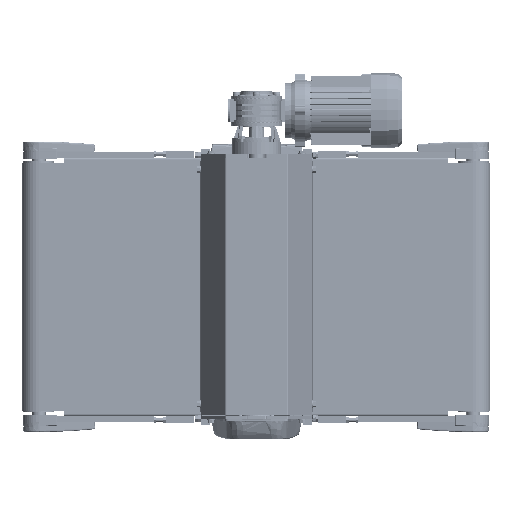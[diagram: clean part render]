
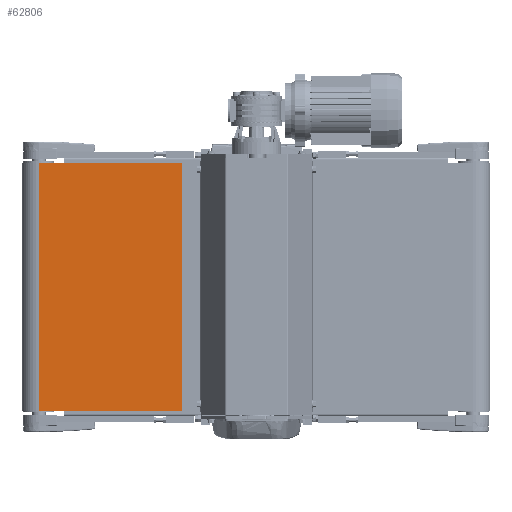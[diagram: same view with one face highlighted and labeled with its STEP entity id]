
A CAD part, front view. The second image highlights one B-rep face of the part: STEP entity #62806.
In plain terms, the highlighted planar face has unit normal (0, -1, 0).
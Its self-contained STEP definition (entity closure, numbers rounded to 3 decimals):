
#976 = VECTOR ( 'NONE', #76944, 1000. ) ;
#13283 = VECTOR ( 'NONE', #108521, 1000. ) ;
#25115 = FACE_OUTER_BOUND ( 'NONE', #70156, .T. ) ;
#25571 = ORIENTED_EDGE ( 'NONE', *, *, #147969, .F. ) ;
#31851 = CARTESIAN_POINT ( 'NONE',  ( -350., -27., 200. ) ) ;
#32607 = VERTEX_POINT ( 'NONE', #177489 ) ;
#36707 = LINE ( 'NONE', #68236, #163714 ) ;
#40730 = CARTESIAN_POINT ( 'NONE',  ( -350., -27., 200. ) ) ;
#41414 = EDGE_CURVE ( 'NONE', #106837, #68927, #161525, .T. ) ;
#48647 = CARTESIAN_POINT ( 'NONE',  ( -350., -27., -200. ) ) ;
#62806 = ADVANCED_FACE ( 'NONE', ( #25115 ), #114117, .F. ) ;
#68236 = CARTESIAN_POINT ( 'NONE',  ( -59., -27., 200. ) ) ;
#68927 = VERTEX_POINT ( 'NONE', #48647 ) ;
#70156 = EDGE_LOOP ( 'NONE', ( #96174, #97021, #25571, #128342 ) ) ;
#76944 = DIRECTION ( 'NONE',  ( 0., 0., -1. ) ) ;
#96174 = ORIENTED_EDGE ( 'NONE', *, *, #132292, .T. ) ;
#97021 = ORIENTED_EDGE ( 'NONE', *, *, #135434, .F. ) ;
#99901 = AXIS2_PLACEMENT_3D ( 'NONE', #156291, #173499, #141906 ) ;
#104002 = VERTEX_POINT ( 'NONE', #150934 ) ;
#106837 = VERTEX_POINT ( 'NONE', #31851 ) ;
#108521 = DIRECTION ( 'NONE',  ( 1., 0., 0. ) ) ;
#114117 = PLANE ( 'NONE',  #99901 ) ;
#128342 = ORIENTED_EDGE ( 'NONE', *, *, #41414, .T. ) ;
#130344 = VECTOR ( 'NONE', #162058, 1000. ) ;
#132292 = EDGE_CURVE ( 'NONE', #68927, #32607, #166041, .T. ) ;
#135434 = EDGE_CURVE ( 'NONE', #104002, #32607, #36707, .T. ) ;
#141906 = DIRECTION ( 'NONE',  ( -1., 0., 0. ) ) ;
#147969 = EDGE_CURVE ( 'NONE', #106837, #104002, #171933, .T. ) ;
#149711 = CARTESIAN_POINT ( 'NONE',  ( -350., -27., 200. ) ) ;
#150934 = CARTESIAN_POINT ( 'NONE',  ( -59., -27., 200. ) ) ;
#153529 = DIRECTION ( 'NONE',  ( 0., 0., -1. ) ) ;
#156291 = CARTESIAN_POINT ( 'NONE',  ( -350., -27., 200. ) ) ;
#161525 = LINE ( 'NONE', #149711, #976 ) ;
#162058 = DIRECTION ( 'NONE',  ( 1., 0., 0. ) ) ;
#163714 = VECTOR ( 'NONE', #153529, 1000. ) ;
#166041 = LINE ( 'NONE', #181318, #13283 ) ;
#171933 = LINE ( 'NONE', #40730, #130344 ) ;
#173499 = DIRECTION ( 'NONE',  ( 0., 1., 0. ) ) ;
#177489 = CARTESIAN_POINT ( 'NONE',  ( -59., -27., -200. ) ) ;
#181318 = CARTESIAN_POINT ( 'NONE',  ( -350., -27., -200. ) ) ;
